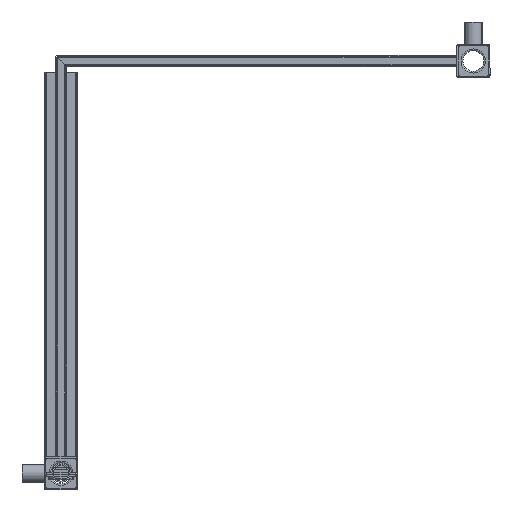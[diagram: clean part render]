
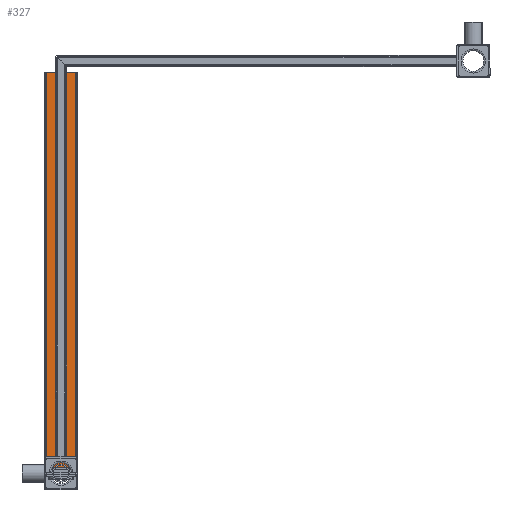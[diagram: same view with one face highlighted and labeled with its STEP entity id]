
A CAD part, front view. The second image highlights one B-rep face of the part: STEP entity #327.
In plain terms, the highlighted planar face has unit normal (0, -1, 0) as drawn and (0, 0, 1) by its records, which use the part's own axes.
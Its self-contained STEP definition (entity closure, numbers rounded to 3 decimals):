
#327 = ADVANCED_FACE( '', ( #799 ), #800, .T. );
#799 = FACE_OUTER_BOUND( '', #1482, .T. );
#800 = PLANE( '', #1483 );
#1482 = EDGE_LOOP( '', ( #2364, #2365, #2366, #2367 ) );
#1483 = AXIS2_PLACEMENT_3D( '', #2368, #2369, #2370 );
#2364 = ORIENTED_EDGE( '', *, *, #4043, .F. );
#2365 = ORIENTED_EDGE( '', *, *, #4044, .T. );
#2366 = ORIENTED_EDGE( '', *, *, #4045, .F. );
#2367 = ORIENTED_EDGE( '', *, *, #4046, .T. );
#2368 = CARTESIAN_POINT( '', ( 15., 389.28, 5. ) );
#2369 = DIRECTION( '', ( 0., 0., 1. ) );
#2370 = DIRECTION( '', ( 1., 0., 0. ) );
#4043 = EDGE_CURVE( '', #4879, #4880, #4881, .T. );
#4044 = EDGE_CURVE( '', #4879, #4882, #4883, .F. );
#4045 = EDGE_CURVE( '', #4884, #4882, #4885, .T. );
#4046 = EDGE_CURVE( '', #4884, #4880, #4886, .T. );
#4879 = VERTEX_POINT( '', #6039 );
#4880 = VERTEX_POINT( '', #6040 );
#4881 = LINE( '', #6041, #6042 );
#4882 = VERTEX_POINT( '', #6043 );
#4883 = LINE( '', #6044, #6045 );
#4884 = VERTEX_POINT( '', #6046 );
#4885 = LINE( '', #6047, #6048 );
#4886 = LINE( '', #6049, #6050 );
#6039 = CARTESIAN_POINT( '', ( 13., 25., 5. ) );
#6040 = CARTESIAN_POINT( '', ( -13., 25., 5. ) );
#6041 = CARTESIAN_POINT( '', ( 15., 25., 5. ) );
#6042 = VECTOR( '', #7315, 1000. );
#6043 = CARTESIAN_POINT( '', ( 13., 380., 5. ) );
#6044 = CARTESIAN_POINT( '', ( 13., 389.28, 5. ) );
#6045 = VECTOR( '', #7316, 1000. );
#6046 = CARTESIAN_POINT( '', ( -13., 380., 5. ) );
#6047 = CARTESIAN_POINT( '', ( -15., 380., 5. ) );
#6048 = VECTOR( '', #7317, 1000. );
#6049 = CARTESIAN_POINT( '', ( -13., 389.28, 5. ) );
#6050 = VECTOR( '', #7318, 1000. );
#7315 = DIRECTION( '', ( -1., 0., 0. ) );
#7316 = DIRECTION( '', ( 0., -1., 0. ) );
#7317 = DIRECTION( '', ( 1., 0., 0. ) );
#7318 = DIRECTION( '', ( 0., -1., 0. ) );
